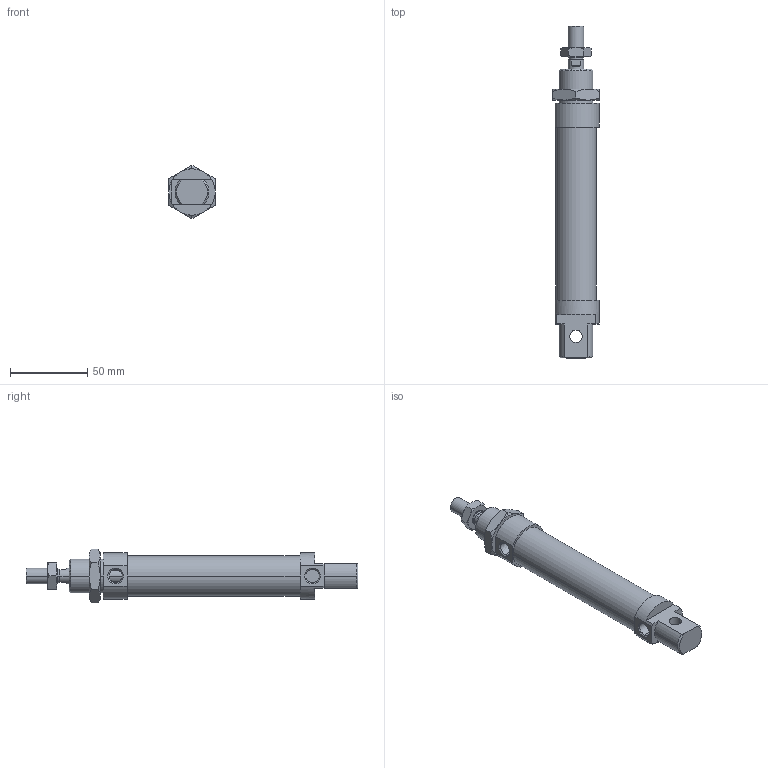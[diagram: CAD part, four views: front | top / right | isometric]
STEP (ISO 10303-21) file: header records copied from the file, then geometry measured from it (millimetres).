
FILE_DESCRIPTION((''),'2;1');
FILE_NAME('I:\DOC-EDP\Lib-3d\1200\CILINDRI\1280\1280_25_0075.stp','2003-04-07T18:00:02',('maffial1'),(''),'Autodesk Inventor (R) 6.0','Autodesk Inventor (R) 6.0','');
FILE_SCHEMA(('AUTOMOTIVE_DESIGN { 1 0 10303 214 1 1 1 1 }'));
Length unit declared in the file: millimetre
Products named in the file (5): 1280_25_0075; S1280_25_75; 1200_25_05; 1200_25_06; C1280_25_75
Assembly tree (4 placements, depth 2):
  1280_25_0075
    S1280_25_75
    1200_25_05
    1200_25_06
    C1280_25_75
Bounding box: 30 x 215 x 34.64 mm (x, y, z)
Volume: 101453.1 mm3; surface area: 28382.3 mm2
Topology: 4 solids, 4 shells, 124 faces, 281 edges, 170 vertices
Faces by surface type: plane 41, cone 40, cylinder 22, bspline 21
Entity records: 3808 total; most frequent: CARTESIAN_POINT 1031, DIRECTION 573, ORIENTED_EDGE 562, EDGE_CURVE 281, AXIS2_PLACEMENT_3D 236, VERTEX_POINT 170, EDGE_LOOP 137, FACE_OUTER_BOUND 124
